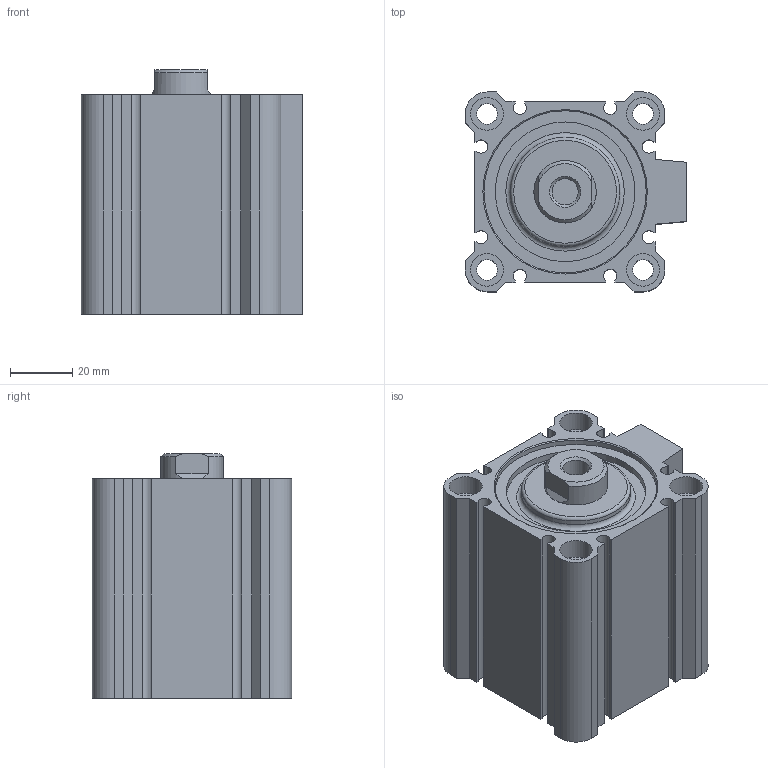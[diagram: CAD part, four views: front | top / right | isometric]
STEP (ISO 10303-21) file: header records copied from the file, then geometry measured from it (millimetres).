
FILE_DESCRIPTION( ( 'STEP AP214' ), '1' );
FILE_NAME( 'C:/Users/emc02044/Desktop/SQN SQN big size/SQN50X30-S.stp', '2026-07-29T02:15:52', ( 'License CC BY-ND 4.0' ), ( 'CADENAS' ), ' ', 'PARTsolutions', ' ' );
FILE_SCHEMA( ( 'AUTOMOTIVE_DESIGN { 1 0 10303 214 1 1 1 1 }' ) );
Length unit declared in the file: millimetre
Products named in the file (3): SQN50X30-S; _SQ50X30-S(0) ()_body; _SQ50X30-S(rod-0)
Assembly tree (2 placements, depth 2):
  SQN50X30-S
    _SQ50X30-S(0) ()_body
    _SQ50X30-S(rod-0)
Bounding box: 71 x 64 x 78.5 mm (x, y, z)
Volume: 186394.6 mm3; surface area: 62233.9 mm2
Topology: 2 solids, 2 shells, 137 faces, 312 edges, 205 vertices
Faces by surface type: plane 82, cylinder 43, cone 10, torus 2
Full cylindrical faces by diameter (mm): 6.6 x4, 6.647 x8, 8.376 x1, 10.5 x8, 11.445 x2, 20 x2, 35 x1, 44.8 x1, 50 x3, 52 x1
Entity records: 4806 total; most frequent: DIRECTION 646, CARTESIAN_POINT 628, ORIENTED_EDGE 538, EDGE_CURVE 269, AXIS2_PLACEMENT_3D 241, EDGE_LOOP 212, VERTEX_POINT 203, FACE_OUTER_BOUND 170
